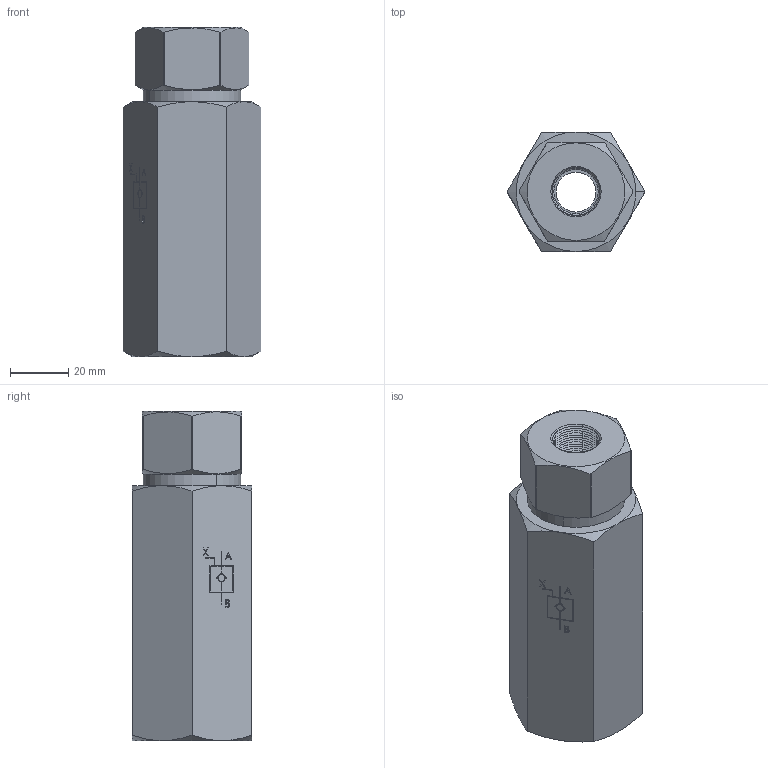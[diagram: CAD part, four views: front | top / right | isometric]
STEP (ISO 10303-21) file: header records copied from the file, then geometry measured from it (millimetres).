
FILE_DESCRIPTION (( 'STEP AP214' ), '1' );
FILE_NAME ('2257-7-38.STEP', '2015-04-08T21:11:21', ( '' ), ( '' ), 'SwSTEP 2.0', 'SolidWorks 2014', '' );
FILE_SCHEMA (( 'AUTOMOTIVE_DESIGN' ));
Length unit declared in the file: millimetre
Products named in the file (1): 2257-7-38
Bounding box: 47.34 x 41 x 113 mm (x, y, z)
Surface area: 20190.5 mm2 (no closed solid volume)
Topology: 0 solids, 31 shells, 333 faces, 1107 edges, 752 vertices
Faces by surface type: plane 150, cone 114, bspline 48, cylinder 21
Entity records: 19449 total; most frequent: CARTESIAN_POINT 6721, ORIENTED_EDGE 1770, DIRECTION 1689, EDGE_CURVE 1107, VERTEX_POINT 752, LINE 665, VECTOR 665, AXIS2_PLACEMENT_3D 512
